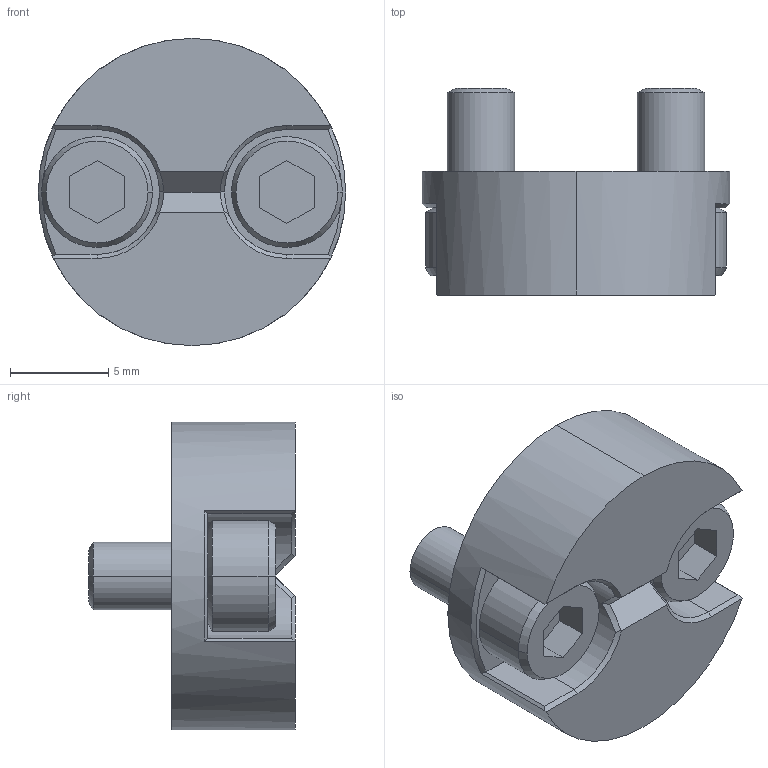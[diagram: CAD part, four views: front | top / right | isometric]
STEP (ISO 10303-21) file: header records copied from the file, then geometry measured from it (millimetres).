
FILE_DESCRIPTION (( 'STEP AP203' ), '1' );
FILE_NAME ('SRTC-10.STEP', '2012-09-12T23:26:30', ( '' ), ( '' ), 'SwSTEP 2.0', 'SolidWorks 2010', '' );
FILE_SCHEMA (( 'CONFIG_CONTROL_DESIGN' ));
Length unit declared in the file: inch
Products named in the file (3): SRTC-10; SRTC-10_SHCS
Assembly tree (3 placements, depth 2):
  SRTC-10
    SRTC-10_SHCS  x2
    SRTC-10
Bounding box: 15.62 x 10.52 x 15.62 mm (x, y, z)
Volume: 1119 mm3; surface area: 1122 mm2
Topology: 3 solids, 3 shells, 77 faces, 183 edges, 116 vertices
Faces by surface type: plane 39, cone 18, cylinder 16, bspline 4
Entity records: 2074 total; most frequent: CARTESIAN_POINT 412, ORIENTED_EDGE 282, DIRECTION 271, EDGE_CURVE 141, AXIS2_PLACEMENT_3D 101, VERTEX_POINT 90, LINE 69, VECTOR 69
